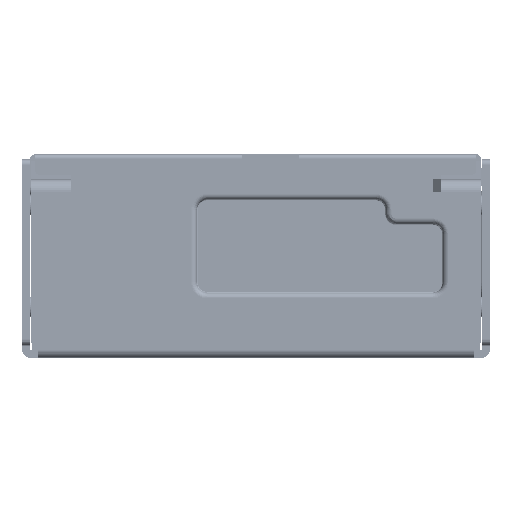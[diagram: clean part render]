
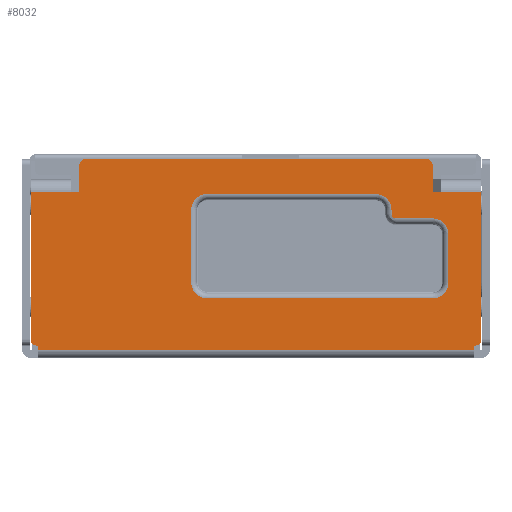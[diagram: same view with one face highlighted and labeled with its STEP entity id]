
A CAD part, left-side view. The second image highlights one B-rep face of the part: STEP entity #8032.
In plain terms, the highlighted planar face has unit normal (-1, 0, 0).
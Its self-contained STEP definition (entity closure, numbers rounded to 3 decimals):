
#2057=DIRECTION('',(0.,-1.,0.));
#2058=VECTOR('',#2057,10.);
#2059=CARTESIAN_POINT('',(0.,64.011,38.8));
#2060=LINE('',#2059,#2058);
#2075=CARTESIAN_POINT('',(0.,50.511,45.3));
#2076=DIRECTION('',(-1.,0.,0.));
#2077=DIRECTION('',(0.,0.,1.));
#2078=AXIS2_PLACEMENT_3D('',#2075,#2076,#2077);
#2080=DIRECTION('',(0.,1.,0.));
#2081=VECTOR('',#2080,83.8);
#2082=CARTESIAN_POINT('',(0.,-33.289,46.8));
#2083=LINE('',#2082,#2081);
#2084=CARTESIAN_POINT('',(0.,-33.289,45.3));
#2085=DIRECTION('',(-1.,0.,0.));
#2086=DIRECTION('',(0.,-1.,0.));
#2087=AXIS2_PLACEMENT_3D('',#2084,#2085,#2086);
#2089=DIRECTION('',(0.,0.,-1.));
#2090=VECTOR('',#2089,6.5);
#2091=CARTESIAN_POINT('',(0.,-34.789,45.3));
#2092=LINE('',#2091,#2090);
#2093=DIRECTION('',(0.,1.,0.));
#2094=VECTOR('',#2093,2.);
#2095=CARTESIAN_POINT('',(0.,-36.789,38.8));
#2096=LINE('',#2095,#2094);
#2097=DIRECTION('',(0.,0.,1.));
#2098=VECTOR('',#2097,36.3);
#2099=CARTESIAN_POINT('',(0.,-46.789,2.5));
#2100=LINE('',#2099,#2098);
#2101=CARTESIAN_POINT('',(0.,-45.289,2.5));
#2102=DIRECTION('',(-1.,0.,0.));
#2103=DIRECTION('',(0.,0.,-1.));
#2104=AXIS2_PLACEMENT_3D('',#2101,#2102,#2103);
#2106=DIRECTION('',(0.,-1.,0.));
#2107=VECTOR('',#2106,0.4);
#2108=CARTESIAN_POINT('',(0.,-44.889,1.));
#2109=LINE('',#2108,#2107);
#2110=DIRECTION('',(0.,0.,1.));
#2111=VECTOR('',#2110,1.);
#2112=CARTESIAN_POINT('',(0.,-44.889,0.));
#2113=LINE('',#2112,#2111);
#2114=DIRECTION('',(0.,0.,1.));
#2115=VECTOR('',#2114,1.);
#2116=CARTESIAN_POINT('',(0.,62.111,0.));
#2117=LINE('',#2116,#2115);
#2118=DIRECTION('',(0.,-1.,0.));
#2119=VECTOR('',#2118,0.4);
#2120=CARTESIAN_POINT('',(0.,62.511,1.));
#2121=LINE('',#2120,#2119);
#2122=CARTESIAN_POINT('',(0.,62.511,2.5));
#2123=DIRECTION('',(-1.,0.,0.));
#2124=DIRECTION('',(0.,1.,0.));
#2125=AXIS2_PLACEMENT_3D('',#2122,#2123,#2124);
#2127=DIRECTION('',(0.,0.,-1.));
#2128=VECTOR('',#2127,36.3);
#2129=CARTESIAN_POINT('',(0.,64.011,38.8));
#2130=LINE('',#2129,#2128);
#2131=DIRECTION('',(0.,1.,0.));
#2132=VECTOR('',#2131,2.);
#2133=CARTESIAN_POINT('',(0.,52.011,38.8));
#2134=LINE('',#2133,#2132);
#2135=DIRECTION('',(0.,0.,-1.));
#2136=VECTOR('',#2135,6.5);
#2137=CARTESIAN_POINT('',(0.,52.011,45.3));
#2138=LINE('',#2137,#2136);
#2139=CARTESIAN_POINT('',(0.,-20.789,34.344));
#2140=DIRECTION('',(1.,0.,0.));
#2141=DIRECTION('',(0.,0.,1.));
#2142=AXIS2_PLACEMENT_3D('',#2139,#2140,#2141);
#2144=DIRECTION('',(0.,-1.,0.));
#2145=VECTOR('',#2144,41.4);
#2146=CARTESIAN_POINT('',(0.,20.611,38.244));
#2147=LINE('',#2146,#2145);
#2148=CARTESIAN_POINT('',(0.,20.611,34.344));
#2149=DIRECTION('',(1.,0.,0.));
#2150=DIRECTION('',(0.,1.,0.));
#2151=AXIS2_PLACEMENT_3D('',#2148,#2149,#2150);
#2153=DIRECTION('',(0.,0.,1.));
#2154=VECTOR('',#2153,17.844);
#2155=CARTESIAN_POINT('',(0.,24.511,16.5));
#2156=LINE('',#2155,#2154);
#2157=CARTESIAN_POINT('',(0.,20.611,16.5));
#2158=DIRECTION('',(1.,0.,0.));
#2159=DIRECTION('',(0.,0.,-1.));
#2160=AXIS2_PLACEMENT_3D('',#2157,#2158,#2159);
#2162=DIRECTION('',(0.,1.,0.));
#2163=VECTOR('',#2162,55.4);
#2164=CARTESIAN_POINT('',(0.,-34.789,12.6));
#2165=LINE('',#2164,#2163);
#2166=CARTESIAN_POINT('',(0.,-34.789,16.5));
#2167=DIRECTION('',(1.,0.,0.));
#2168=DIRECTION('',(0.,-1.,0.));
#2169=AXIS2_PLACEMENT_3D('',#2166,#2167,#2168);
#2171=DIRECTION('',(0.,0.,-1.));
#2172=VECTOR('',#2171,11.844);
#2173=CARTESIAN_POINT('',(0.,-38.689,28.344));
#2174=LINE('',#2173,#2172);
#2175=CARTESIAN_POINT('',(0.,-34.789,28.344));
#2176=DIRECTION('',(1.,0.,0.));
#2177=DIRECTION('',(0.,0.,1.));
#2178=AXIS2_PLACEMENT_3D('',#2175,#2176,#2177);
#2180=DIRECTION('',(0.,-1.,0.));
#2181=VECTOR('',#2180,9.);
#2182=CARTESIAN_POINT('',(0.,-25.789,32.244));
#2183=LINE('',#2182,#2181);
#2184=CARTESIAN_POINT('',(0.,-25.789,33.344));
#2185=DIRECTION('',(-1.,0.,0.));
#2186=DIRECTION('',(0.,1.,0.));
#2187=AXIS2_PLACEMENT_3D('',#2184,#2185,#2186);
#2189=DIRECTION('',(0.,0.,-1.));
#2190=VECTOR('',#2189,1.);
#2191=CARTESIAN_POINT('',(0.,-24.689,34.344));
#2192=LINE('',#2191,#2190);
#2213=DIRECTION('',(0.,-1.,0.));
#2214=VECTOR('',#2213,10.);
#2215=CARTESIAN_POINT('',(0.,-36.789,38.8));
#2216=LINE('',#2215,#2214);
#2540=DIRECTION('',(0.,-1.,0.));
#2541=VECTOR('',#2540,107.);
#2542=CARTESIAN_POINT('',(0.,62.111,0.));
#2543=LINE('',#2542,#2541);
#4734=CARTESIAN_POINT('',(0.,-44.889,0.));
#4735=CARTESIAN_POINT('',(0.,-44.889,1.));
#4736=VERTEX_POINT('',#4734);
#4737=VERTEX_POINT('',#4735);
#4738=CARTESIAN_POINT('',(0.,62.111,0.));
#4739=CARTESIAN_POINT('',(0.,62.111,1.));
#4740=VERTEX_POINT('',#4738);
#4741=VERTEX_POINT('',#4739);
#4746=CARTESIAN_POINT('',(0.,64.011,2.5));
#4747=VERTEX_POINT('',#4746);
#4748=CARTESIAN_POINT('',(0.,62.511,1.));
#4749=VERTEX_POINT('',#4748);
#4938=CARTESIAN_POINT('',(0.,-45.289,1.));
#4939=VERTEX_POINT('',#4938);
#4940=CARTESIAN_POINT('',(0.,-46.789,2.5));
#4941=VERTEX_POINT('',#4940);
#4990=CARTESIAN_POINT('',(0.,-46.789,38.8));
#4991=VERTEX_POINT('',#4990);
#4992=CARTESIAN_POINT('',(0.,-36.789,38.8));
#4993=VERTEX_POINT('',#4992);
#5058=CARTESIAN_POINT('',(0.,54.011,38.8));
#5059=VERTEX_POINT('',#5058);
#5060=CARTESIAN_POINT('',(0.,64.011,38.8));
#5061=VERTEX_POINT('',#5060);
#5074=CARTESIAN_POINT('',(0.,-34.789,38.8));
#5075=VERTEX_POINT('',#5074);
#5076=CARTESIAN_POINT('',(0.,52.011,38.8));
#5077=VERTEX_POINT('',#5076);
#5082=CARTESIAN_POINT('',(0.,50.511,46.8));
#5083=VERTEX_POINT('',#5082);
#5084=CARTESIAN_POINT('',(0.,52.011,45.3));
#5085=VERTEX_POINT('',#5084);
#5090=CARTESIAN_POINT('',(0.,-34.789,45.3));
#5091=VERTEX_POINT('',#5090);
#5092=CARTESIAN_POINT('',(0.,-33.289,46.8));
#5093=VERTEX_POINT('',#5092);
#5364=CARTESIAN_POINT('',(0.,-20.789,38.244));
#5365=CARTESIAN_POINT('',(0.,-24.689,34.344));
#5366=VERTEX_POINT('',#5364);
#5367=VERTEX_POINT('',#5365);
#5368=CARTESIAN_POINT('',(0.,-24.689,33.344));
#5369=VERTEX_POINT('',#5368);
#5370=CARTESIAN_POINT('',(0.,-34.789,12.6));
#5371=CARTESIAN_POINT('',(0.,20.611,12.6));
#5372=VERTEX_POINT('',#5370);
#5373=VERTEX_POINT('',#5371);
#5374=CARTESIAN_POINT('',(0.,24.511,16.5));
#5375=VERTEX_POINT('',#5374);
#5376=CARTESIAN_POINT('',(0.,24.511,34.344));
#5377=VERTEX_POINT('',#5376);
#5378=CARTESIAN_POINT('',(0.,20.611,38.244));
#5379=VERTEX_POINT('',#5378);
#5524=CARTESIAN_POINT('',(0.,-25.789,32.244));
#5525=VERTEX_POINT('',#5524);
#5526=CARTESIAN_POINT('',(0.,-34.789,32.244));
#5527=VERTEX_POINT('',#5526);
#5528=CARTESIAN_POINT('',(0.,-38.689,28.344));
#5529=VERTEX_POINT('',#5528);
#5530=CARTESIAN_POINT('',(0.,-38.689,16.5));
#5531=VERTEX_POINT('',#5530);
#7969=CARTESIAN_POINT('',(0.,-46.889,-2.));
#7970=DIRECTION('',(-1.,0.,0.));
#7971=DIRECTION('',(0.,-1.,0.));
#7972=AXIS2_PLACEMENT_3D('',#7969,#7970,#7971);
#7973=PLANE('',#7972);
#7975=ORIENTED_EDGE('',*,*,#7974,.F.);
#7977=ORIENTED_EDGE('',*,*,#7976,.F.);
#7979=ORIENTED_EDGE('',*,*,#7978,.F.);
#7981=ORIENTED_EDGE('',*,*,#7980,.T.);
#7983=ORIENTED_EDGE('',*,*,#7982,.F.);
#7985=ORIENTED_EDGE('',*,*,#7984,.T.);
#7987=ORIENTED_EDGE('',*,*,#7986,.F.);
#7989=ORIENTED_EDGE('',*,*,#7988,.F.);
#7991=ORIENTED_EDGE('',*,*,#7990,.F.);
#7992=ORIENTED_EDGE('',*,*,#7427,.F.);
#7994=ORIENTED_EDGE('',*,*,#7993,.F.);
#7995=ORIENTED_EDGE('',*,*,#7891,.T.);
#7996=ORIENTED_EDGE('',*,*,#7904,.F.);
#7997=ORIENTED_EDGE('',*,*,#7919,.F.);
#7998=ORIENTED_EDGE('',*,*,#7932,.F.);
#7999=ORIENTED_EDGE('',*,*,#7959,.T.);
#8001=ORIENTED_EDGE('',*,*,#8000,.F.);
#8003=ORIENTED_EDGE('',*,*,#8002,.F.);
#8004=EDGE_LOOP('',(#7975,#7977,#7979,#7981,#7983,#7985,#7987,#7989,#7991,#7992,
#7994,#7995,#7996,#7997,#7998,#7999,#8001,#8003));
#8005=FACE_OUTER_BOUND('',#8004,.F.);
#8007=ORIENTED_EDGE('',*,*,#8006,.F.);
#8009=ORIENTED_EDGE('',*,*,#8008,.F.);
#8011=ORIENTED_EDGE('',*,*,#8010,.F.);
#8013=ORIENTED_EDGE('',*,*,#8012,.F.);
#8015=ORIENTED_EDGE('',*,*,#8014,.F.);
#8017=ORIENTED_EDGE('',*,*,#8016,.F.);
#8019=ORIENTED_EDGE('',*,*,#8018,.F.);
#8021=ORIENTED_EDGE('',*,*,#8020,.F.);
#8023=ORIENTED_EDGE('',*,*,#8022,.F.);
#8025=ORIENTED_EDGE('',*,*,#8024,.F.);
#8027=ORIENTED_EDGE('',*,*,#8026,.F.);
#8029=ORIENTED_EDGE('',*,*,#8028,.F.);
#8030=EDGE_LOOP('',(#8007,#8009,#8011,#8013,#8015,#8017,#8019,#8021,#8023,#8025,
#8027,#8029));
#8031=FACE_BOUND('',#8030,.F.);
#2079=CIRCLE('',#2078,1.5);
#2088=CIRCLE('',#2087,1.5);
#2105=CIRCLE('',#2104,1.5);
#2126=CIRCLE('',#2125,1.5);
#2143=CIRCLE('',#2142,3.9);
#2152=CIRCLE('',#2151,3.9);
#2161=CIRCLE('',#2160,3.9);
#2170=CIRCLE('',#2169,3.9);
#2179=CIRCLE('',#2178,3.9);
#2188=CIRCLE('',#2187,1.1);
#7427=EDGE_CURVE('',#4736,#4737,#2113,.T.);
#7891=EDGE_CURVE('',#4740,#4741,#2117,.T.);
#7904=EDGE_CURVE('',#4749,#4741,#2121,.T.);
#7919=EDGE_CURVE('',#4747,#4749,#2126,.T.);
#7932=EDGE_CURVE('',#5061,#4747,#2130,.T.);
#7959=EDGE_CURVE('',#5061,#5059,#2060,.T.);
#7974=EDGE_CURVE('',#5083,#5085,#2079,.T.);
#7976=EDGE_CURVE('',#5093,#5083,#2083,.T.);
#7978=EDGE_CURVE('',#5091,#5093,#2088,.T.);
#7980=EDGE_CURVE('',#5091,#5075,#2092,.T.);
#7982=EDGE_CURVE('',#4993,#5075,#2096,.T.);
#7984=EDGE_CURVE('',#4993,#4991,#2216,.T.);
#7986=EDGE_CURVE('',#4941,#4991,#2100,.T.);
#7988=EDGE_CURVE('',#4939,#4941,#2105,.T.);
#7990=EDGE_CURVE('',#4737,#4939,#2109,.T.);
#7993=EDGE_CURVE('',#4740,#4736,#2543,.T.);
#8000=EDGE_CURVE('',#5077,#5059,#2134,.T.);
#8002=EDGE_CURVE('',#5085,#5077,#2138,.T.);
#8006=EDGE_CURVE('',#5366,#5367,#2143,.T.);
#8008=EDGE_CURVE('',#5379,#5366,#2147,.T.);
#8010=EDGE_CURVE('',#5377,#5379,#2152,.T.);
#8012=EDGE_CURVE('',#5375,#5377,#2156,.T.);
#8014=EDGE_CURVE('',#5373,#5375,#2161,.T.);
#8016=EDGE_CURVE('',#5372,#5373,#2165,.T.);
#8018=EDGE_CURVE('',#5531,#5372,#2170,.T.);
#8020=EDGE_CURVE('',#5529,#5531,#2174,.T.);
#8022=EDGE_CURVE('',#5527,#5529,#2179,.T.);
#8024=EDGE_CURVE('',#5525,#5527,#2183,.T.);
#8026=EDGE_CURVE('',#5369,#5525,#2188,.T.);
#8028=EDGE_CURVE('',#5367,#5369,#2192,.T.);
#8032=ADVANCED_FACE('',(#8005,#8031),#7973,.T.);
